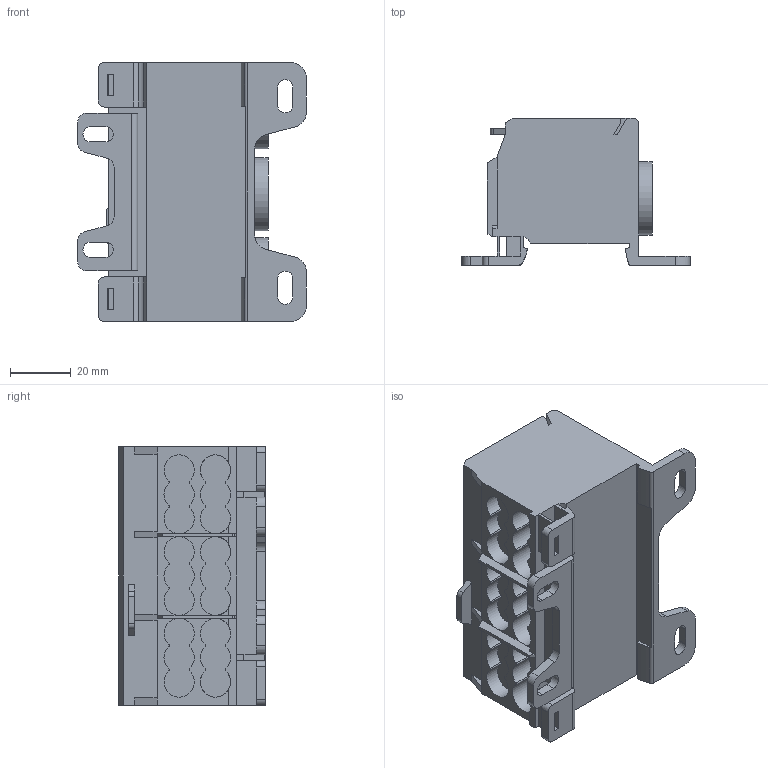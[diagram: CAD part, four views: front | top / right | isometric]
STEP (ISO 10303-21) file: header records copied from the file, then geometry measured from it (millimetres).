
FILE_DESCRIPTION(('Open CASCADE Model'),'2;1');
FILE_NAME('Open CASCADE Shape Model','2023-06-26T10:26:27',('Author'),( 'Open CASCADE'),'Open CASCADE STEP processor 6.5','Open CASCADE 6.5' ,'Unknown');
FILE_SCHEMA(('AUTOMOTIVE_DESIGN { 1 0 10303 214 1 1 1 1 }'));
Length unit declared in the file: millimetre
Products named in the file (269): CADSOFTTOOLS 1; CADSOFTTOOLS 1.1; CADSOFTTOOLS 1.2; CADSOFTTOOLS 1.3; CADSOFTTOOLS 1.4; CADSOFTTOOLS 1.5; CADSOFTTOOLS 1.6; CADSOFTTOOLS 1.7; CADSOFTTOOLS 1.8; CADSOFTTOOLS 1.9; CADSOFTTOOLS 1.10; CADSOFTTOOLS 1.11; CADSOFTTOOLS 1.12; CADSOFTTOOLS 1.13; CADSOFTTOOLS 1.14; CADSOFTTOOLS 1.15; CADSOFTTOOLS 1.16; CADSOFTTOOLS 1.17; CADSOFTTOOLS 1.18; CADSOFTTOOLS 1.19; CADSOFTTOOLS 1.20; CADSOFTTOOLS 1.21; CADSOFTTOOLS 1.22; CADSOFTTOOLS 1.23; CADSOFTTOOLS 1.24; CADSOFTTOOLS 1.25; CADSOFTTOOLS 1.26; CADSOFTTOOLS 1.27; CADSOFTTOOLS 1.28; CADSOFTTOOLS 1.29; CADSOFTTOOLS 1.30; CADSOFTTOOLS 1.31; CADSOFTTOOLS 1.32; CADSOFTTOOLS 1.33; CADSOFTTOOLS 1.34; CADSOFTTOOLS 1.35; CADSOFTTOOLS 1.36; CADSOFTTOOLS 1.37; CADSOFTTOOLS 1.38; CADSOFTTOOLS 1.39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
Assembly tree (268 placements, depth 2):
  CADSOFTTOOLS 1
    CADSOFTTOOLS 1.1
    CADSOFTTOOLS 1.2
    CADSOFTTOOLS 1.3
    CADSOFTTOOLS 1.4
    CADSOFTTOOLS 1.5
    CADSOFTTOOLS 1.6
    CADSOFTTOOLS 1.7
    CADSOFTTOOLS 1.8
    CADSOFTTOOLS 1.9
    CADSOFTTOOLS 1.10
    CADSOFTTOOLS 1.11
    CADSOFTTOOLS 1.12
    CADSOFTTOOLS 1.13
    CADSOFTTOOLS 1.14
    CADSOFTTOOLS 1.15
    CADSOFTTOOLS 1.16
    CADSOFTTOOLS 1.17
    CADSOFTTOOLS 1.18
    CADSOFTTOOLS 1.19
    CADSOFTTOOLS 1.20
    CADSOFTTOOLS 1.21
    CADSOFTTOOLS 1.22
    CADSOFTTOOLS 1.23
    CADSOFTTOOLS 1.24
    CADSOFTTOOLS 1.25
    CADSOFTTOOLS 1.26
    CADSOFTTOOLS 1.27
    CADSOFTTOOLS 1.28
    CADSOFTTOOLS 1.29
    CADSOFTTOOLS 1.30
    CADSOFTTOOLS 1.31
    CADSOFTTOOLS 1.32
    CADSOFTTOOLS 1.33
    CADSOFTTOOLS 1.34
    CADSOFTTOOLS 1.35
    CADSOFTTOOLS 1.36
    CADSOFTTOOLS 1.37
    CADSOFTTOOLS 1.38
    CADSOFTTOOLS 1.39
    CADSOFTTOOLS 1.40
    CADSOFTTOOLS 1.41
    CADSOFTTOOLS 1.42
    CADSOFTTOOLS 1.43
    CADSOFTTOOLS 1.44
    CADSOFTTOOLS 1.45
    CADSOFTTOOLS 1.46
    CADSOFTTOOLS 1.47
    CADSOFTTOOLS 1.48
    CADSOFTTOOLS 1.49
    CADSOFTTOOLS 1.50
    CADSOFTTOOLS 1.51
    CADSOFTTOOLS 1.52
    CADSOFTTOOLS 1.53
    CADSOFTTOOLS 1.54
    CADSOFTTOOLS 1.55
    CADSOFTTOOLS 1.56
    CADSOFTTOOLS 1.57
    CADSOFTTOOLS 1.58
    CADSOFTTOOLS 1.59
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Bounding box: 75.5 x 48.5 x 85.5 mm (x, y, z)
Surface area: 39470.8 mm2 (no closed solid volume)
Topology: 0 solids, 268 shells, 268 faces, 1484 edges, 1474 vertices
Faces by surface type: plane 174, cylinder 94
Full cylindrical faces by diameter (mm): 1.916 x2, 21.1 x3, 24.1 x3
Entity records: 30518 total; most frequent: CARTESIAN_POINT 6384, DIRECTION 3943, LINE 1964, VECTOR 1964, ORIENTED_EDGE 1492, PCURVE 1492, DEFINITIONAL_REPRESENTATION 1492, EDGE_CURVE 1484
